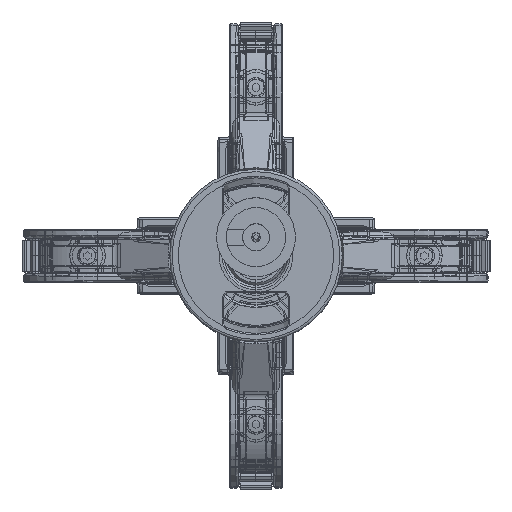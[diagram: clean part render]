
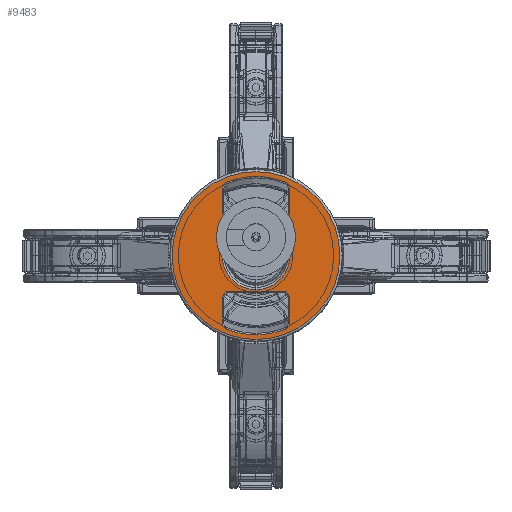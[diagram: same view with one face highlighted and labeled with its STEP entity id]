
A CAD part, top view. The second image highlights one B-rep face of the part: STEP entity #9483.
In plain terms, the highlighted planar face has unit normal (0, 0, 1).
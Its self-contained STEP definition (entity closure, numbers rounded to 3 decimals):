
#2096=LINE('',#110305,#3506);
#2097=LINE('',#110314,#3507);
#2098=LINE('',#110318,#3508);
#2099=LINE('',#110333,#3509);
#2100=LINE('',#110339,#3510);
#2101=LINE('',#110343,#3511);
#3506=VECTOR('',#41488,1.);
#3507=VECTOR('',#41495,1.);
#3508=VECTOR('',#41498,1.);
#3509=VECTOR('',#41513,1.);
#3510=VECTOR('',#41518,1.);
#3511=VECTOR('',#41521,1.);
#7780=PLANE('',#36774);
#9483=ADVANCED_FACE('',(#12901,#12902,#12903,#12904),#7780,.T.);
#12901=FACE_BOUND('',#14596,.T.);
#12902=FACE_BOUND('',#14597,.T.);
#12903=FACE_BOUND('',#14598,.T.);
#12904=FACE_BOUND('',#14599,.T.);
#14596=EDGE_LOOP('',(#22825,#22826,#22827,#22828,#22829,#22830,#22831,#22832));
#14597=EDGE_LOOP('',(#22833,#22834,#22835));
#14598=EDGE_LOOP('',(#22836,#22837,#22838));
#14599=EDGE_LOOP('',(#22839,#22840,#22841,#22842,#22843,#22844,#22845,#22846));
#22825=ORIENTED_EDGE('',*,*,#32843,.F.);
#22826=ORIENTED_EDGE('',*,*,#32844,.F.);
#22827=ORIENTED_EDGE('',*,*,#32845,.F.);
#22828=ORIENTED_EDGE('',*,*,#32846,.F.);
#22829=ORIENTED_EDGE('',*,*,#32847,.T.);
#22830=ORIENTED_EDGE('',*,*,#32848,.F.);
#22831=ORIENTED_EDGE('',*,*,#32849,.F.);
#22832=ORIENTED_EDGE('',*,*,#32850,.F.);
#22833=ORIENTED_EDGE('',*,*,#32851,.F.);
#22834=ORIENTED_EDGE('',*,*,#32852,.F.);
#22835=ORIENTED_EDGE('',*,*,#32853,.F.);
#22836=ORIENTED_EDGE('',*,*,#32854,.F.);
#22837=ORIENTED_EDGE('',*,*,#32855,.F.);
#22838=ORIENTED_EDGE('',*,*,#32856,.F.);
#22839=ORIENTED_EDGE('',*,*,#32857,.F.);
#22840=ORIENTED_EDGE('',*,*,#32858,.F.);
#22841=ORIENTED_EDGE('',*,*,#32830,.F.);
#22842=ORIENTED_EDGE('',*,*,#32859,.F.);
#22843=ORIENTED_EDGE('',*,*,#32860,.F.);
#22844=ORIENTED_EDGE('',*,*,#32861,.T.);
#22845=ORIENTED_EDGE('',*,*,#32862,.F.);
#22846=ORIENTED_EDGE('',*,*,#32863,.T.);
#28135=VERTEX_POINT('',#110279);
#28136=VERTEX_POINT('',#110280);
#28146=VERTEX_POINT('',#110306);
#28147=VERTEX_POINT('',#110307);
#28148=VERTEX_POINT('',#110309);
#28149=VERTEX_POINT('',#110311);
#28150=VERTEX_POINT('',#110313);
#28151=VERTEX_POINT('',#110315);
#28152=VERTEX_POINT('',#110317);
#28153=VERTEX_POINT('',#110319);
#28154=VERTEX_POINT('',#110322);
#28155=VERTEX_POINT('',#110323);
#28156=VERTEX_POINT('',#110325);
#28157=VERTEX_POINT('',#110328);
#28158=VERTEX_POINT('',#110329);
#28159=VERTEX_POINT('',#110331);
#28160=VERTEX_POINT('',#110334);
#28161=VERTEX_POINT('',#110335);
#28162=VERTEX_POINT('',#110338);
#28163=VERTEX_POINT('',#110340);
#28164=VERTEX_POINT('',#110342);
#28165=VERTEX_POINT('',#110344);
#32830=EDGE_CURVE('',#28135,#28136,#34938,.T.);
#32843=EDGE_CURVE('',#28146,#28147,#2096,.T.);
#32844=EDGE_CURVE('',#28148,#28146,#34949,.T.);
#32845=EDGE_CURVE('',#28149,#28148,#34950,.T.);
#32846=EDGE_CURVE('',#28150,#28149,#34951,.T.);
#32847=EDGE_CURVE('',#28150,#28151,#2097,.T.);
#32848=EDGE_CURVE('',#28152,#28151,#34952,.T.);
#32849=EDGE_CURVE('',#28153,#28152,#2098,.T.);
#32850=EDGE_CURVE('',#28147,#28153,#34953,.T.);
#32851=EDGE_CURVE('',#28154,#28155,#34954,.T.);
#32852=EDGE_CURVE('',#28156,#28154,#34955,.T.);
#32853=EDGE_CURVE('',#28155,#28156,#34956,.T.);
#32854=EDGE_CURVE('',#28157,#28158,#34957,.T.);
#32855=EDGE_CURVE('',#28159,#28157,#34958,.T.);
#32856=EDGE_CURVE('',#28158,#28159,#34959,.T.);
#32857=EDGE_CURVE('',#28160,#28161,#2099,.T.);
#32858=EDGE_CURVE('',#28136,#28160,#34960,.T.);
#32859=EDGE_CURVE('',#28162,#28135,#34961,.T.);
#32860=EDGE_CURVE('',#28163,#28162,#2100,.T.);
#32861=EDGE_CURVE('',#28163,#28164,#34962,.T.);
#32862=EDGE_CURVE('',#28165,#28164,#2101,.T.);
#32863=EDGE_CURVE('',#28165,#28161,#34963,.T.);
#34938=CIRCLE('',#36745,16.05);
#34949=CIRCLE('',#36759,1.3);
#34950=CIRCLE('',#36760,16.05);
#34951=CIRCLE('',#36761,1.3);
#34952=CIRCLE('',#36762,1.3);
#34953=CIRCLE('',#36763,1.3);
#34954=CIRCLE('',#36764,6.887);
#34955=CIRCLE('',#36765,6.887);
#34956=CIRCLE('',#36766,6.887);
#34957=CIRCLE('',#36767,17.);
#34958=CIRCLE('',#36768,17.);
#34959=CIRCLE('',#36769,17.);
#34960=CIRCLE('',#36770,1.3);
#34961=CIRCLE('',#36771,1.3);
#34962=CIRCLE('',#36772,1.3);
#34963=CIRCLE('',#36773,1.3);
#36745=AXIS2_PLACEMENT_3D('',#110278,#41458,#41459);
#36759=AXIS2_PLACEMENT_3D('',#110308,#41489,#41490);
#36760=AXIS2_PLACEMENT_3D('',#110310,#41491,#41492);
#36761=AXIS2_PLACEMENT_3D('',#110312,#41493,#41494);
#36762=AXIS2_PLACEMENT_3D('',#110316,#41496,#41497);
#36763=AXIS2_PLACEMENT_3D('',#110320,#41499,#41500);
#36764=AXIS2_PLACEMENT_3D('',#110321,#41501,#41502);
#36765=AXIS2_PLACEMENT_3D('',#110324,#41503,#41504);
#36766=AXIS2_PLACEMENT_3D('',#110326,#41505,#41506);
#36767=AXIS2_PLACEMENT_3D('',#110327,#41507,#41508);
#36768=AXIS2_PLACEMENT_3D('',#110330,#41509,#41510);
#36769=AXIS2_PLACEMENT_3D('',#110332,#41511,#41512);
#36770=AXIS2_PLACEMENT_3D('',#110336,#41514,#41515);
#36771=AXIS2_PLACEMENT_3D('',#110337,#41516,#41517);
#36772=AXIS2_PLACEMENT_3D('',#110341,#41519,#41520);
#36773=AXIS2_PLACEMENT_3D('',#110345,#41522,#41523);
#36774=AXIS2_PLACEMENT_3D('',#110346,#41524,#41525);
#41458=DIRECTION('',(0.,0.,1.));
#41459=DIRECTION('',(1.,0.,0.));
#41488=DIRECTION('',(0.,1.,0.));
#41489=DIRECTION('',(0.,0.,1.));
#41490=DIRECTION('',(1.,0.,0.));
#41491=DIRECTION('',(0.,0.,1.));
#41492=DIRECTION('',(1.,0.,0.));
#41493=DIRECTION('',(0.,0.,1.));
#41494=DIRECTION('',(1.,0.,0.));
#41495=DIRECTION('',(0.,1.,0.));
#41496=DIRECTION('',(0.,0.,1.));
#41497=DIRECTION('',(1.,0.,0.));
#41498=DIRECTION('',(-1.,0.,0.));
#41499=DIRECTION('',(0.,0.,1.));
#41500=DIRECTION('',(1.,0.,0.));
#41501=DIRECTION('',(0.,0.,1.));
#41502=DIRECTION('',(1.,0.,0.));
#41503=DIRECTION('',(0.,0.,1.));
#41504=DIRECTION('',(1.,0.,0.));
#41505=DIRECTION('',(0.,0.,1.));
#41506=DIRECTION('',(1.,0.,0.));
#41507=DIRECTION('',(0.,0.,-1.));
#41508=DIRECTION('',(-1.,0.,0.));
#41509=DIRECTION('',(0.,0.,-1.));
#41510=DIRECTION('',(-1.,0.,0.));
#41511=DIRECTION('',(0.,0.,-1.));
#41512=DIRECTION('',(-1.,0.,0.));
#41513=DIRECTION('',(0.,-1.,0.));
#41514=DIRECTION('',(0.,0.,1.));
#41515=DIRECTION('',(1.,0.,0.));
#41516=DIRECTION('',(0.,0.,1.));
#41517=DIRECTION('',(1.,0.,0.));
#41518=DIRECTION('',(0.,1.,0.));
#41519=DIRECTION('',(0.,0.,-1.));
#41520=DIRECTION('',(-1.,0.,0.));
#41521=DIRECTION('',(1.,0.,0.));
#41522=DIRECTION('',(0.,0.,-1.));
#41523=DIRECTION('',(-1.,0.,0.));
#41524=DIRECTION('',(0.,0.,1.));
#41525=DIRECTION('',(1.,0.,0.));
#110278=CARTESIAN_POINT('',(0.,0.,24.));
#110279=CARTESIAN_POINT('',(5.985,14.892,24.));
#110280=CARTESIAN_POINT('',(-5.985,14.892,24.));
#110305=CARTESIAN_POINT('',(6.8,8.896,24.));
#110306=CARTESIAN_POINT('',(6.8,-13.686,24.));
#110307=CARTESIAN_POINT('',(6.8,-8.5,24.));
#110308=CARTESIAN_POINT('',(5.5,-13.686,24.));
#110309=CARTESIAN_POINT('',(5.985,-14.892,24.));
#110310=CARTESIAN_POINT('',(0.,0.,24.));
#110311=CARTESIAN_POINT('',(-5.985,-14.892,24.));
#110312=CARTESIAN_POINT('',(-5.5,-13.686,24.));
#110313=CARTESIAN_POINT('',(-6.8,-13.686,24.));
#110314=CARTESIAN_POINT('',(-6.8,8.896,24.));
#110315=CARTESIAN_POINT('',(-6.8,-8.5,24.));
#110316=CARTESIAN_POINT('',(-5.5,-8.5,24.));
#110317=CARTESIAN_POINT('',(-5.5,-7.2,24.));
#110318=CARTESIAN_POINT('',(1.796,-7.2,24.));
#110319=CARTESIAN_POINT('',(5.5,-7.2,24.));
#110320=CARTESIAN_POINT('',(5.5,-8.5,24.));
#110321=CARTESIAN_POINT('',(0.,0.,24.));
#110322=CARTESIAN_POINT('',(-6.887,0.,24.));
#110323=CARTESIAN_POINT('',(0.,-6.887,24.));
#110324=CARTESIAN_POINT('',(0.,0.,24.));
#110325=CARTESIAN_POINT('',(6.887,0.,24.));
#110326=CARTESIAN_POINT('',(0.,0.,24.));
#110327=CARTESIAN_POINT('',(0.,0.,24.));
#110328=CARTESIAN_POINT('',(17.,0.,24.));
#110329=CARTESIAN_POINT('',(0.,-17.,24.));
#110330=CARTESIAN_POINT('',(0.,0.,24.));
#110331=CARTESIAN_POINT('',(-17.,0.,24.));
#110332=CARTESIAN_POINT('',(0.,0.,24.));
#110333=CARTESIAN_POINT('',(-6.8,8.896,24.));
#110334=CARTESIAN_POINT('',(-6.8,13.686,24.));
#110335=CARTESIAN_POINT('',(-6.8,8.5,24.));
#110336=CARTESIAN_POINT('',(-5.5,13.686,24.));
#110337=CARTESIAN_POINT('',(5.5,13.686,24.));
#110338=CARTESIAN_POINT('',(6.8,13.686,24.));
#110339=CARTESIAN_POINT('',(6.8,8.896,24.));
#110340=CARTESIAN_POINT('',(6.8,8.5,24.));
#110341=CARTESIAN_POINT('',(5.5,8.5,24.));
#110342=CARTESIAN_POINT('',(5.5,7.2,24.));
#110343=CARTESIAN_POINT('',(1.796,7.2,24.));
#110344=CARTESIAN_POINT('',(-5.5,7.2,24.));
#110345=CARTESIAN_POINT('',(-5.5,8.5,24.));
#110346=CARTESIAN_POINT('',(0.,16.057,24.));
